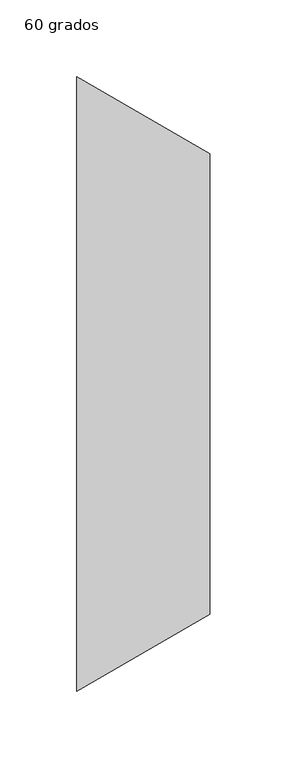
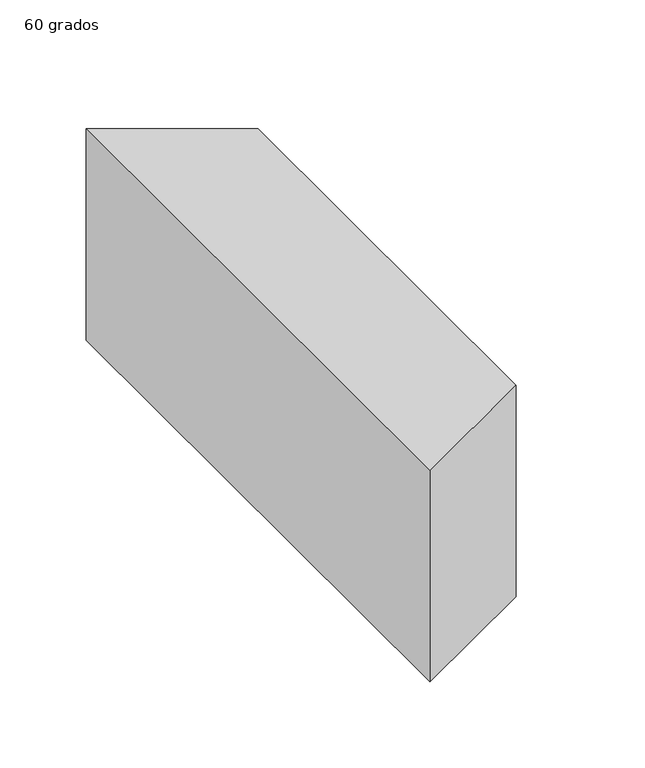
"""IFC4 building model written with IfcOpenShell, lengths in millimetres: duct fitting geometry, M_Transición rectangular - Ángulo : 60 grados."""

from ifc_helpers import new_model, si_unit, frame, origin, place, context, project, spatial, polyline, outline, extrude, source, transform, mapped, element, save


def duct_fitting_60_grados_9ca5db9d(model_context):
    return source(origin(), model_context, "Body", "SweptSolid", [
        extrude(outline(polyline([(0.0, -200.0), (0.0, 200.0), (86.6025404, 150.0), (86.6025404, -150.0), (0.0, -200.0)])), frame((0.0, 0.0, -75.0), z_axis=(0.0, 0.0, 1.0), x_axis=(1.0, 0.0, 0.0)), (0.0, 0.0, 1.0), 150.0),
    ])


if __name__ == "__main__":
    model = new_model("IFC4")
    model_context = context("Model", 3, world=origin())
    ifc_project = project(units=[si_unit("LENGTHUNIT", "METRE", prefix="MILLI")], contexts=[model_context])
    site = spatial("IfcSite", under=ifc_project)
    building = spatial("IfcBuilding", under=site)
    placement = place(None, origin())
    duct_fitting_60_grados_shape = duct_fitting_60_grados_9ca5db9d(model_context)
    element("IfcDuctFitting", 1, ObjectType="M_Transición rectangular - Ángulo : 60 grados", at=placement, inside=building, context=model_context, shape_type="MappedRepresentation", body=[
        mapped(duct_fitting_60_grados_shape, transform((0.0, 0.0, 0.0), x_axis=(1.0, 0.0, 0.0), y_axis=(0.0, 1.0, 0.0), z_axis=(0.0, 0.0, 1.0))),
    ])
    save(model, "model.ifc")
